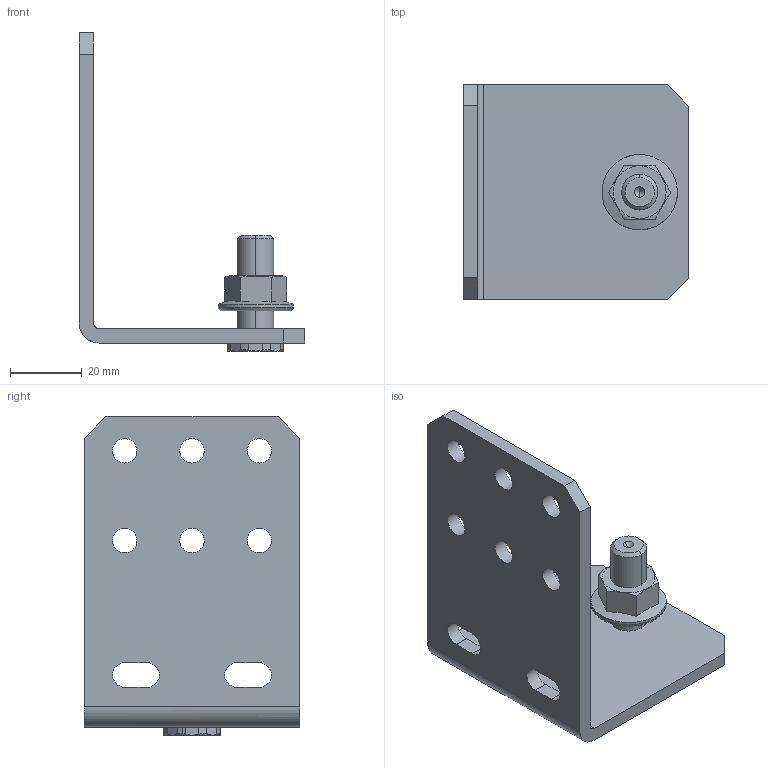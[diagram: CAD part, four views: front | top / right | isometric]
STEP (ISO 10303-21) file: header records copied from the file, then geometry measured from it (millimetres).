
FILE_DESCRIPTION((''),'2;1');
FILE_NAME('d:\scratch\23130-4180000001.stp','2007-07-12T13:27:59',( 'User'),('SDRC'),'I-DEAS Master Series 9','UNIX','Yes');
FILE_SCHEMA(('CONFIG_CONTROL_DESIGN', 'GEOMETRIC_VALIDATION_PROPERTIES_MIM','SHAPE_APPEARANCE_LAYER_MIM'));
Length unit declared in the file: millimetre
Assembly tree (4 placements, depth 0):
Bounding box: 62.9 x 60 x 88.79 mm (x, y, z)
Volume: 36211.5 mm3; surface area: 21487.8 mm2
Topology: 3 solids, 4 shells, 85 faces, 236 edges, 162 vertices
Faces by surface type: bspline 85
Entity records: 4485 total; most frequent: CARTESIAN_POINT 2344, ORIENTED_EDGE 458, EDGE_CURVE 230, VERTEX_POINT 154, EDGE_LOOP 107, FACE_OUTER_BOUND 85, ADVANCED_FACE 85, B_SPLINE_CURVE_WITH_KNOTS 77
